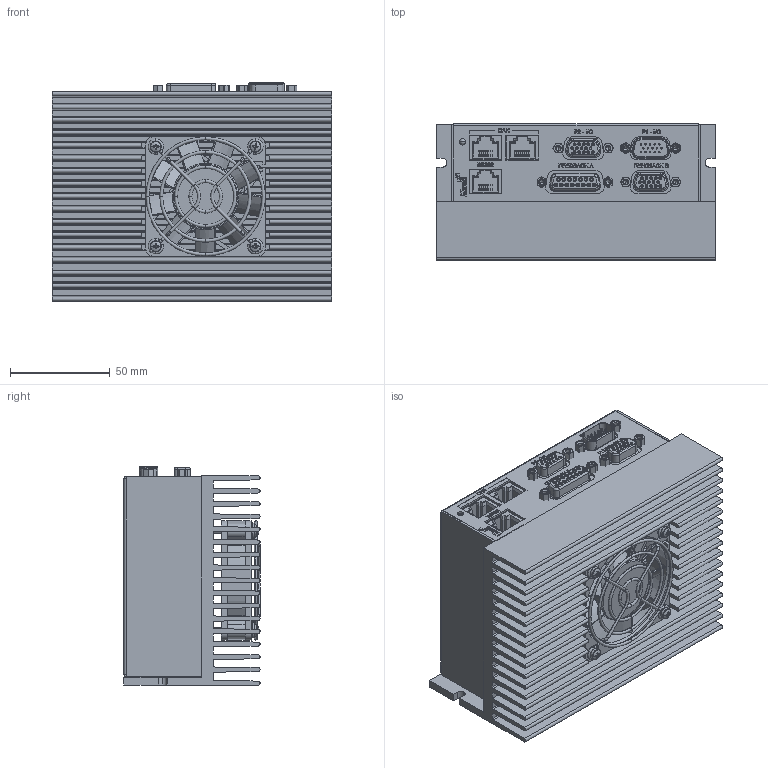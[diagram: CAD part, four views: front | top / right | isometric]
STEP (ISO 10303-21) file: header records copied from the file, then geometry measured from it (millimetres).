
FILE_DESCRIPTION (( 'STEP AP203' ), '1' );
FILE_NAME ('DC-Trombone-fan.STEP', '2013-06-02T12:27:09', ( 'YAEL' ), ( 'Microsoft' ), 'SwSTEP 2.0', 'SolidWorks 2013', '' );
FILE_SCHEMA (( 'CONFIG_CONTROL_DESIGN' ));
Products named in the file (1): DC-Trombone-fan
Bounding box: 140 x 68.35 x 109.5 mm (x, y, z)
Volume: 283366.3 mm3; surface area: 223819.1 mm2
Topology: 32 solids, 32 shells, 5946 faces, 15317 edges, 9717 vertices
Faces by surface type: plane 4067, cylinder 1073, bspline 366, cone 334, torus 98, sphere 8
Entity records: 195068 total; most frequent: CARTESIAN_POINT 52564, ORIENTED_EDGE 30422, DIRECTION 27721, EDGE_CURVE 15211, VECTOR 11437, LINE 11437, VERTEX_POINT 9717, AXIS2_PLACEMENT_3D 8142
